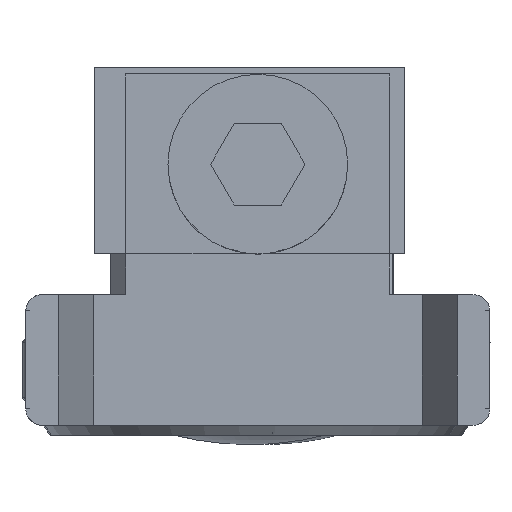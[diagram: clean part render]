
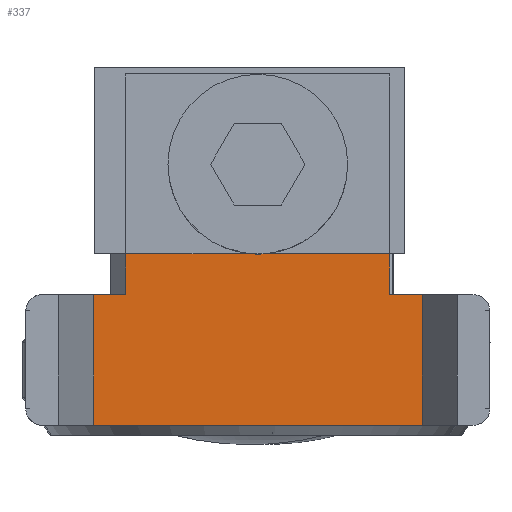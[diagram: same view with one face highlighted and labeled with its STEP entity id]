
A CAD part, left-side view. The second image highlights one B-rep face of the part: STEP entity #337.
In plain terms, the highlighted planar face has unit normal (-1, 0, 0).
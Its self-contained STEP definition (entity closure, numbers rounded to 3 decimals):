
#80 = DIRECTION ( 'NONE',  ( 0., -1., 0. ) ) ;
#101 = PLANE ( 'NONE',  #5494 ) ;
#135 = CARTESIAN_POINT ( 'NONE',  ( 4., -4., 5.028 ) ) ;
#204 = CARTESIAN_POINT ( 'NONE',  ( 4., 0., -4.04 ) ) ;
#250 = AXIS2_PLACEMENT_3D ( 'NONE', #3866, #2719, #4906 ) ;
#258 = LINE ( 'NONE', #4491, #4898 ) ;
#312 = ORIENTED_EDGE ( 'NONE', *, *, #6526, .T. ) ;
#327 = VERTEX_POINT ( 'NONE', #5590 ) ;
#337 = ADVANCED_FACE ( 'NONE', ( #3549 ), #101, .T. ) ;
#368 = EDGE_CURVE ( 'NONE', #6257, #2754, #5030, .T. ) ;
#424 = LINE ( 'NONE', #1792, #6428 ) ;
#431 = EDGE_CURVE ( 'NONE', #3734, #6024, #2092, .T. ) ;
#558 = DIRECTION ( 'NONE',  ( 0., 0., -1. ) ) ;
#964 = LINE ( 'NONE', #4526, #3365 ) ;
#1131 = LINE ( 'NONE', #4691, #7037 ) ;
#1280 = VERTEX_POINT ( 'NONE', #135 ) ;
#1327 = DIRECTION ( 'NONE',  ( 0., -1., 0. ) ) ;
#1423 = CARTESIAN_POINT ( 'NONE',  ( 4., 1.25, -0.234 ) ) ;
#1792 = CARTESIAN_POINT ( 'NONE',  ( 4., 1.25, -5.028 ) ) ;
#1818 = CARTESIAN_POINT ( 'NONE',  ( 4., 0., -5.028 ) ) ;
#1876 = ORIENTED_EDGE ( 'NONE', *, *, #5553, .T. ) ;
#2034 = VECTOR ( 'NONE', #4816, 1000. ) ;
#2061 = VERTEX_POINT ( 'NONE', #1818 ) ;
#2092 = LINE ( 'NONE', #204, #3476 ) ;
#2181 = VECTOR ( 'NONE', #1327, 1000. ) ;
#2221 = CARTESIAN_POINT ( 'NONE',  ( 4., -4., -5.028 ) ) ;
#2238 = ORIENTED_EDGE ( 'NONE', *, *, #368, .F. ) ;
#2539 = EDGE_CURVE ( 'NONE', #327, #1280, #964, .T. ) ;
#2596 = DIRECTION ( 'NONE',  ( 0., 0., 1. ) ) ;
#2695 = EDGE_CURVE ( 'NONE', #2061, #6024, #1131, .T. ) ;
#2719 = DIRECTION ( 'NONE',  ( -1., 0., 0. ) ) ;
#2737 = CARTESIAN_POINT ( 'NONE',  ( 4., 1.25, -4.04 ) ) ;
#2754 = VERTEX_POINT ( 'NONE', #6365 ) ;
#2863 = ORIENTED_EDGE ( 'NONE', *, *, #2695, .F. ) ;
#3188 = CARTESIAN_POINT ( 'NONE',  ( 4., 0., -4.04 ) ) ;
#3365 = VECTOR ( 'NONE', #3441, 1000. ) ;
#3402 = DIRECTION ( 'NONE',  ( 0., 0., -1. ) ) ;
#3441 = DIRECTION ( 'NONE',  ( 0., 0., 1. ) ) ;
#3476 = VECTOR ( 'NONE', #4544, 1000. ) ;
#3531 = ORIENTED_EDGE ( 'NONE', *, *, #2539, .T. ) ;
#3549 = FACE_OUTER_BOUND ( 'NONE', #6708, .T. ) ;
#3599 = CARTESIAN_POINT ( 'NONE',  ( 4., -4., -5.028 ) ) ;
#3708 = VERTEX_POINT ( 'NONE', #7010 ) ;
#3734 = VERTEX_POINT ( 'NONE', #2737 ) ;
#3744 = CIRCLE ( 'NONE', #250, 2.75 ) ;
#3841 = EDGE_CURVE ( 'NONE', #3708, #1280, #258, .T. ) ;
#3866 = CARTESIAN_POINT ( 'NONE',  ( 4., 3.99, 0. ) ) ;
#4056 = CARTESIAN_POINT ( 'NONE',  ( 4., 1.25, 0.234 ) ) ;
#4134 = ORIENTED_EDGE ( 'NONE', *, *, #3841, .F. ) ;
#4343 = CARTESIAN_POINT ( 'NONE',  ( 4., 0., -5.028 ) ) ;
#4427 = CARTESIAN_POINT ( 'NONE',  ( 4., 1.25, -5.028 ) ) ;
#4491 = CARTESIAN_POINT ( 'NONE',  ( 4., -4., 5.028 ) ) ;
#4526 = CARTESIAN_POINT ( 'NONE',  ( 4., -4., 0. ) ) ;
#4544 = DIRECTION ( 'NONE',  ( 0., -1., 0. ) ) ;
#4582 = EDGE_CURVE ( 'NONE', #6257, #4771, #424, .T. ) ;
#4691 = CARTESIAN_POINT ( 'NONE',  ( 4., 0., 0. ) ) ;
#4699 = VECTOR ( 'NONE', #558, 1000. ) ;
#4771 = VERTEX_POINT ( 'NONE', #4056 ) ;
#4816 = DIRECTION ( 'NONE',  ( 0., -1., 0. ) ) ;
#4898 = VECTOR ( 'NONE', #80, 1000. ) ;
#4906 = DIRECTION ( 'NONE',  ( 0., 0., 1. ) ) ;
#4961 = LINE ( 'NONE', #3599, #2034 ) ;
#5030 = LINE ( 'NONE', #5156, #2181 ) ;
#5146 = EDGE_CURVE ( 'NONE', #5361, #3734, #5485, .T. ) ;
#5156 = CARTESIAN_POINT ( 'NONE',  ( 4., 0., 4.04 ) ) ;
#5351 = DIRECTION ( 'NONE',  ( 0., 0., 1. ) ) ;
#5361 = VERTEX_POINT ( 'NONE', #1423 ) ;
#5479 = ORIENTED_EDGE ( 'NONE', *, *, #5146, .T. ) ;
#5485 = LINE ( 'NONE', #4427, #6500 ) ;
#5494 = AXIS2_PLACEMENT_3D ( 'NONE', #2221, #5933, #2596 ) ;
#5497 = ORIENTED_EDGE ( 'NONE', *, *, #4582, .T. ) ;
#5531 = ORIENTED_EDGE ( 'NONE', *, *, #6144, .F. ) ;
#5542 = DIRECTION ( 'NONE',  ( 0., 0., -1. ) ) ;
#5553 = EDGE_CURVE ( 'NONE', #3708, #2754, #5744, .T. ) ;
#5590 = CARTESIAN_POINT ( 'NONE',  ( 4., -4., -5.028 ) ) ;
#5744 = LINE ( 'NONE', #4343, #4699 ) ;
#5933 = DIRECTION ( 'NONE',  ( -1., 0., 0. ) ) ;
#6024 = VERTEX_POINT ( 'NONE', #3188 ) ;
#6110 = ORIENTED_EDGE ( 'NONE', *, *, #431, .T. ) ;
#6144 = EDGE_CURVE ( 'NONE', #5361, #4771, #3744, .T. ) ;
#6257 = VERTEX_POINT ( 'NONE', #6582 ) ;
#6365 = CARTESIAN_POINT ( 'NONE',  ( 4., 0., 4.04 ) ) ;
#6428 = VECTOR ( 'NONE', #3402, 1000. ) ;
#6500 = VECTOR ( 'NONE', #5542, 1000. ) ;
#6526 = EDGE_CURVE ( 'NONE', #2061, #327, #4961, .T. ) ;
#6582 = CARTESIAN_POINT ( 'NONE',  ( 4., 1.25, 4.04 ) ) ;
#6708 = EDGE_LOOP ( 'NONE', ( #1876, #2238, #5497, #5531, #5479, #6110, #2863, #312, #3531, #4134 ) ) ;
#7010 = CARTESIAN_POINT ( 'NONE',  ( 4., 0., 5.028 ) ) ;
#7037 = VECTOR ( 'NONE', #5351, 1000. ) ;
